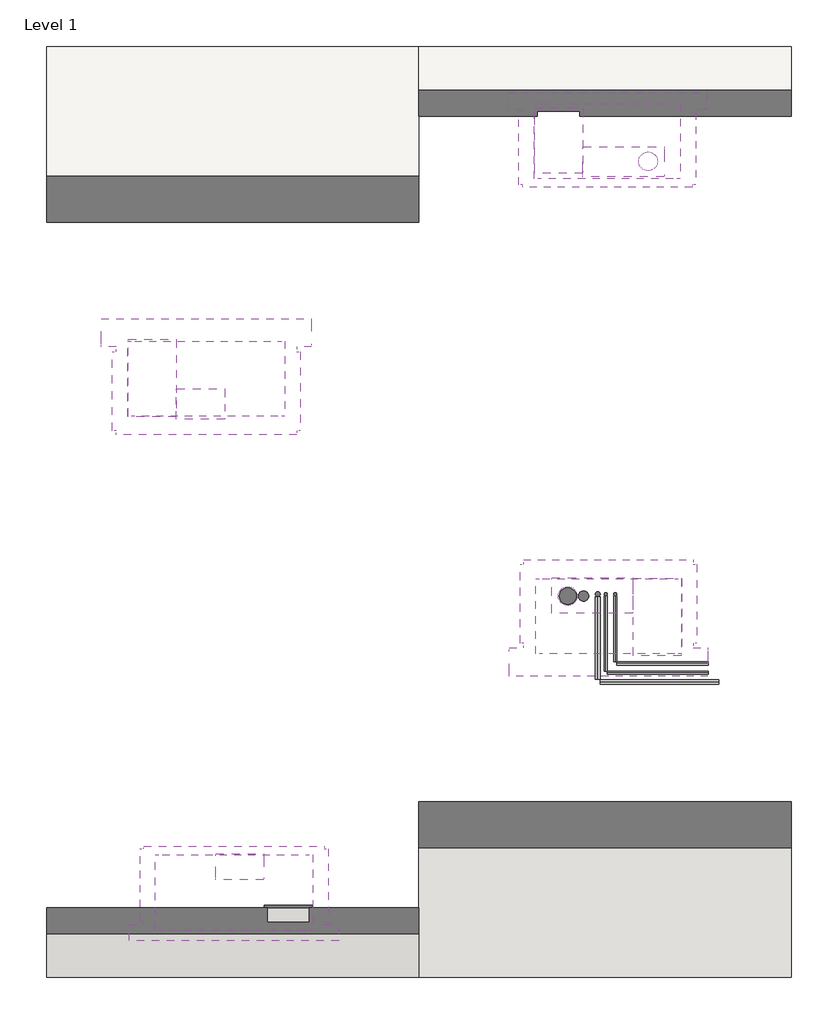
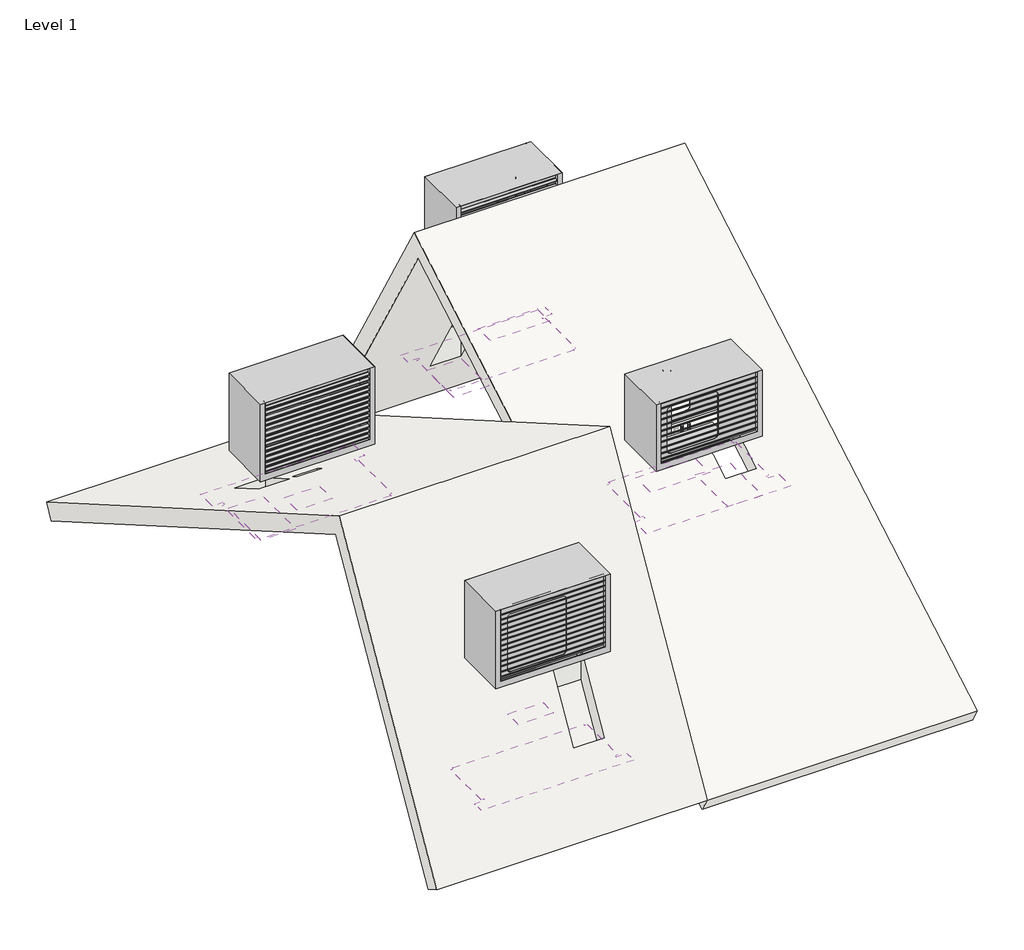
# One storey, incomplete: 12 coverings, 12 pipe segments, 4 unitary equipment elements, 2 roofs, 1 duct segment.
"""IFC4 building model written with IfcOpenShell, lengths in millimetres."""

from ifc_helpers import new_model, si_unit, point, frame, frame_2d, origin, place, context, project, spatial, circle_curve, trimmed, segment, composite_curve, outline, extrude, faceted_brep, transform, mapped, element, save
from components import covering_ebfa055f, covering_0022e7d6, covering_44cbcef2, covering_237e270b, covering_13abd7a2, covering_e1946cb7, covering_832741f2, covering_2f231527, inspection_panel_dda_93841c41, inspection_panel_dda_a83ceb8f, pipe_segment_adc9d0ba, delta_discovery_air_bdbf6794, delta_discovery_air_83ad3b17, delta_discovery_air_xl_f5126de7, delta_discovery_air_xl_14b97afa

model = new_model("IFC4")

# Units and contexts
model_context = context("Model", 3, world=origin())
ifc_project = project(units=[si_unit("LENGTHUNIT", "METRE", prefix="MILLI")], contexts=[model_context])

# Site, building, storey
site = spatial("IfcSite", under=ifc_project)
building = spatial("IfcBuilding", under=site)
storey = spatial("IfcBuildingStorey", under=building, Name="Level 1", Elevation=0.0)

# Coverings
placement = place(None, origin())
covering_shape = covering_ebfa055f(model_context)
element("IfcCovering", 1, ObjectType="RSen_GM_WPB_Delta Discovery Air_roofboard-SH_M&G : roofboard DDA", at=placement, inside=storey, context=model_context, shape_type="MappedRepresentation", body=[
    mapped(covering_shape, transform((8173.9996074, -2235.3633269, 2475.4617163), x_axis=(0.0, 1.0, 0.0), y_axis=(-1.0, 0.0, 0.0), z_axis=(0.0, 0.0, 1.0))),
])
covering_2_shape = covering_0022e7d6(model_context)
element("IfcCovering", 2, ObjectType="RSen_GM_WPB_Delta Discovery Air_roofboard-SH_M&G : roofboard DDA-XL", at=placement, inside=storey, context=model_context, shape_type="MappedRepresentation", body=[
    mapped(covering_2_shape, transform((4387.1169231, -5151.0925738, 1942.219356), x_axis=(0.0, 1.0, 0.0), y_axis=(-1.0, 0.0, 0.0), z_axis=(0.0, 0.0, 1.0))),
])
covering_3_shape = covering_44cbcef2(model_context)
element("IfcCovering", 3, ObjectType="RSen_GM_WPB_Delta Discovery Air_roofboard-SH_M&G : roofboard DDA", at=placement, inside=storey, context=model_context, shape_type="MappedRepresentation", body=[
    mapped(covering_3_shape, transform((8510.5299691, 2441.3325879, 2027.822587), x_axis=(0.0, -1.0, 0.0), y_axis=(1.0, 0.0, 0.0), z_axis=(0.0, 0.0, 1.0))),
])
covering_4_shape = covering_237e270b(model_context)
element("IfcCovering", 4, ObjectType="RSen_GM_WPB_Delta Discovery Air_roofboard-SH_M&G : roofboard DDA-XL", at=placement, inside=storey, context=model_context, shape_type="MappedRepresentation", body=[
    mapped(covering_4_shape, transform((3967.4796779, -166.4650275, 2326.2117163), x_axis=(0.0, -1.0, 0.0), y_axis=(1.0, 0.0, 0.0), z_axis=(0.0, 0.0, 1.0))),
])
covering_5_shape = covering_13abd7a2(model_context)
element("IfcCovering", 5, ObjectType="RSen_GM_WPB_Delta Discovery Air_mountingbox-SH_M&G : mountingbox DDA", at=placement, inside=storey, context=model_context, shape_type="MappedRepresentation", body=[
    mapped(covering_5_shape, transform((8348.9996074, -2790.8188759, 2443.4405917), x_axis=(0.0, 1.0, 0.0), y_axis=(-1.0, 0.0, 0.0), z_axis=(0.0, 0.0, 1.0))),
])
covering_6_shape = covering_e1946cb7(model_context)
element("IfcCovering", 6, ObjectType="RSen_GM_WPB_Delta Discovery Air_mountingbox-SH_M&G : mountingbox DDA-XL", at=placement, inside=storey, context=model_context, shape_type="MappedRepresentation", body=[
    mapped(covering_6_shape, transform((4325.6169231, -5757.5859079, 1391.7305412), x_axis=(0.0, 1.0, 0.0), y_axis=(-1.0, 0.0, 0.0), z_axis=(0.0, 0.0, 1.0))),
])
covering_7_shape = covering_832741f2(model_context)
element("IfcCovering", 7, ObjectType="RSen_GM_WPB_Delta Discovery Air_mountingbox-SH_M&G : mountingbox DDA", at=placement, inside=storey, context=model_context, shape_type="MappedRepresentation", body=[
    mapped(covering_7_shape, transform((8335.5299691, 2993.325922, 1571.7305412), x_axis=(0.0, -1.0, 0.0), y_axis=(1.0, 0.0, 0.0), z_axis=(0.0, 0.0, 1.0))),
])
covering_8_shape = covering_2f231527(model_context)
element("IfcCovering", 8, ObjectType="RSen_GM_WPB_Delta Discovery Air_mountingbox-SH_M&G : mountingbox DDA-XL", at=placement, inside=storey, context=model_context, shape_type="MappedRepresentation", body=[
    mapped(covering_8_shape, transform((4028.9796779, 442.2510838, 2263.4405917), x_axis=(0.0, -1.0, 0.0), y_axis=(1.0, 0.0, 0.0), z_axis=(0.0, 0.0, 1.0))),
])
inspection_panel_dda_shape = inspection_panel_dda_93841c41(model_context)
element("IfcCovering", 9, ObjectType="RSen_GM_WPB_Delta Discovery Air_insp panel-SH_M&G : inspection panel DDA", at=placement, inside=storey, context=model_context, shape_type="MappedRepresentation", body=[
    mapped(inspection_panel_dda_shape, transform((8871.4996074, -2464.4270462, 2343.2117163), x_axis=(0.0, 1.0000000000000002, 0.0), y_axis=(-1.0000000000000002, 0.0, 0.0), z_axis=(0.0, 0.0, 1.0))),
])
element("IfcCovering", 10, ObjectType="RSen_GM_WPB_Delta Discovery Air_insp panel-SH_M&G : inspection panel DDA", at=placement, inside=storey, context=model_context, shape_type="MappedRepresentation", body=[
    mapped(inspection_panel_dda_shape, transform((3446.4796779, 115.8592541, 2163.2117163), x_axis=(0.0, -1.0000000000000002, 0.0), y_axis=(1.0000000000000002, 0.0, 0.0), z_axis=(0.0, 0.0, 1.0))),
])
inspection_panel_dda_2_shape = inspection_panel_dda_a83ceb8f(model_context)
element("IfcCovering", 11, ObjectType="RSen_GM_WPB_Delta Discovery Air_insp panel-SH_M&G : inspection panel DDA", at=placement, inside=storey, context=model_context, shape_type="MappedRepresentation", body=[
    mapped(inspection_panel_dda_2_shape, transform((4908.1169231, -5435.0925738, 1450.3169266), x_axis=(0.0, 1.0000000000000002, 0.0), y_axis=(-1.0000000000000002, 0.0, 0.0), z_axis=(0.0, 0.0, 1.0))),
])
element("IfcCovering", 12, ObjectType="RSen_GM_WPB_Delta Discovery Air_insp panel-SH_M&G : inspection panel DDA", at=placement, inside=storey, context=model_context, shape_type="MappedRepresentation", body=[
    mapped(inspection_panel_dda_2_shape, transform((7813.0299691, 2670.8325879, 1630.3169266), x_axis=(0.0, -1.0000000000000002, 0.0), y_axis=(1.0000000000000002, 0.0, 0.0), z_axis=(0.0, 0.0, 1.0))),
])

# Duct segment
element("IfcDuctSegment", 13, ObjectType="Default", at=placement, inside=storey, context=model_context, shape_type="SweptSolid", body=[
    extrude(outline(composite_curve([segment(trimmed(circle_curve(frame_2d((7910.9996074, -2233.8255417)), 90.0), [point((7910.9996074, -2143.8255417))], [point((8000.9996074, -2233.8255417))], False, "CARTESIAN"), True, "CONTINUOUS"), segment(trimmed(circle_curve(frame_2d((7910.9996074, -2233.8255417)), 90.0), [point((8000.9996074, -2233.8255417))], [point((7910.9996074, -2323.8255417))], False, "CARTESIAN"), True, "CONTINUOUS"), segment(trimmed(circle_curve(frame_2d((7910.9996074, -2233.8255417)), 90.0), [point((7910.9996074, -2323.8255417))], [point((7820.9996074, -2233.8255417))], False, "CARTESIAN"), True, "CONTINUOUS"), segment(trimmed(circle_curve(frame_2d((7910.9996074, -2233.8255417)), 90.0), [point((7820.9996074, -2233.8255417))], [point((7910.9996074, -2143.8255417))], False, "CARTESIAN"), True, "CONTINUOUS")], self_intersect=False)), frame((0.0, 0.0, 544.2186654), z_axis=(0.0, 0.0, 1.0), x_axis=(1.0, 0.0, 0.0)), (0.0, 0.0, 1.0), 1520.0),
])

# Pipe segments
pipe_segment_shape = pipe_segment_adc9d0ba(model_context)
element("IfcPipeSegment", 14, ObjectType="RSen_GM_WPB_Delta Discovery Air_pipe extension set-SH_M&G : pipe ext set L=1000mm", at=placement, inside=storey, context=model_context, shape_type="MappedRepresentation", body=[
    mapped(pipe_segment_shape, transform((7910.9996074, -2233.8255417, 3064.2186654), x_axis=(1.0, 0.0, 0.0), y_axis=(0.0, 1.0, 0.0), z_axis=(0.0, 0.0, 1.0))),
])
element("IfcPipeSegment", 15, ObjectType="RSen_GM_WPB_Delta Discovery Air_pipe extension set-SH_M&G : pipe ext set L=1000mm", at=placement, inside=storey, context=model_context, shape_type="MappedRepresentation", body=[
    mapped(pipe_segment_shape, transform((8773.5299691, 2436.3325879, 3064.2186654), x_axis=(-1.0, 0.0, 0.0), y_axis=(0.0, -1.0, 0.0), z_axis=(0.0, 0.0, 1.0))),
])
element("IfcPipeSegment", 16, ObjectType="design HDPE", at=placement, inside=storey, context=model_context, shape_type="SweptSolid", body=[
    extrude(outline(composite_curve([segment(trimmed(circle_curve(frame_2d((0.0, 25.0)), 25.0), [point((25.0, 25.0))], [point((0.0, 0.0))], False, "CARTESIAN"), True, "CONTINUOUS"), segment(trimmed(circle_curve(frame_2d((0.0, 25.0)), 25.0), [point((0.0, 0.0))], [point((-25.0, 25.0))], False, "CARTESIAN"), True, "CONTINUOUS"), segment(trimmed(circle_curve(frame_2d((0.0, 25.0)), 25.0), [point((-25.0, 25.0))], [point((0.0, 50.0000001))], False, "CARTESIAN"), True, "CONTINUOUS"), segment(trimmed(circle_curve(frame_2d((0.0, 25.0)), 25.0), [point((0.0, 50.0000001))], [point((25.0, 25.0))], False, "CARTESIAN"), True, "CONTINUOUS")], self_intersect=False)), frame((8233.1325262, -3127.4701351, 79.915147), z_axis=(0.0, 0.9998875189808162, 0.014998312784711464), x_axis=(1.0, 0.0, 0.0)), (0.0, 0.0, 1.0), 886.8725414),
])
element("IfcPipeSegment", 17, ObjectType="design HDPE", at=placement, inside=storey, context=model_context, shape_type="SweptSolid", body=[
    extrude(outline(composite_curve([segment(trimmed(circle_curve(frame_2d((0.0, 25.0)), 25.0), [point((0.0, 50.0))], [point((25.0, 25.0))], False, "CARTESIAN"), True, "CONTINUOUS"), segment(trimmed(circle_curve(frame_2d((0.0, 25.0)), 25.0), [point((25.0, 25.0))], [point((0.0, 0.0))], False, "CARTESIAN"), True, "CONTINUOUS"), segment(trimmed(circle_curve(frame_2d((0.0, 25.0)), 25.0), [point((0.0, 0.0))], [point((-25.0, 25.0))], False, "CARTESIAN"), True, "CONTINUOUS"), segment(trimmed(circle_curve(frame_2d((0.0, 25.0)), 25.0), [point((-25.0, 25.0))], [point((0.0, 50.0))], False, "CARTESIAN"), True, "CONTINUOUS")], self_intersect=False)), frame((9532.9996074, -3180.0920278, 35.0), z_axis=(-0.9998875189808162, 0.0, 0.014998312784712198), x_axis=(0.014998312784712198, 0.0, 0.9998875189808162)), (0.0, 0.0, 1.0), 1272.013308),
])
element("IfcPipeSegment", 18, ObjectType="design HDPE", at=placement, inside=storey, context=model_context, shape_type="SweptSolid", body=[
    extrude(outline(composite_curve([segment(trimmed(circle_curve(frame_2d((8232.9996074, -2212.3255417)), 25.0), [point((8257.9996074, -2212.3255417))], [point((8232.9996074, -2237.3255417))], False, "CARTESIAN"), True, "CONTINUOUS"), segment(trimmed(circle_curve(frame_2d((8232.9996074, -2212.3255417)), 25.0), [point((8232.9996074, -2237.3255417))], [point((8207.9996074, -2212.3255417))], False, "CARTESIAN"), True, "CONTINUOUS"), segment(trimmed(circle_curve(frame_2d((8232.9996074, -2212.3255417)), 25.0), [point((8207.9996074, -2212.3255417))], [point((8232.9996074, -2187.3255417))], False, "CARTESIAN"), True, "CONTINUOUS"), segment(trimmed(circle_curve(frame_2d((8232.9996074, -2212.3255417)), 25.0), [point((8232.9996074, -2187.3255417))], [point((8257.9996074, -2212.3255417))], False, "CARTESIAN"), True, "CONTINUOUS")], self_intersect=False)), frame((0.0, 0.0, 96.6395035), z_axis=(0.0, 0.0, 1.0), x_axis=(1.0, 0.0, 0.0)), (0.0, 0.0, 1.0), 1967.5791618),
])
element("IfcPipeSegment", 19, ObjectType="design HDPE", at=placement, inside=storey, context=model_context, shape_type="SweptSolid", body=[
    extrude(outline(composite_curve([segment(trimmed(circle_curve(frame_2d((8080.9996074, -2233.8255417)), 55.0), [point((8135.9996074, -2233.8255417))], [point((8080.9996074, -2288.8255417))], False, "CARTESIAN"), True, "CONTINUOUS"), segment(trimmed(circle_curve(frame_2d((8080.9996074, -2233.8255417)), 55.0), [point((8080.9996074, -2288.8255417))], [point((8025.9996074, -2233.8255417))], False, "CARTESIAN"), True, "CONTINUOUS"), segment(trimmed(circle_curve(frame_2d((8080.9996074, -2233.8255417)), 55.0), [point((8025.9996074, -2233.8255417))], [point((8080.9996074, -2178.8255417))], False, "CARTESIAN"), True, "CONTINUOUS"), segment(trimmed(circle_curve(frame_2d((8080.9996074, -2233.8255417)), 55.0), [point((8080.9996074, -2178.8255417))], [point((8135.9996074, -2233.8255417))], False, "CARTESIAN"), True, "CONTINUOUS")], self_intersect=False)), frame((0.0, 0.0, 304.2186654), z_axis=(0.0, 0.0, 1.0), x_axis=(1.0, 0.0, 0.0)), (0.0, 0.0, 1.0), 1760.0),
])
element("IfcPipeSegment", 20, ObjectType="design steel pipes", at=placement, inside=storey, context=model_context, shape_type="SweptSolid", body=[
    extrude(outline(composite_curve([segment(trimmed(circle_curve(frame_2d((8419.9996074, -2212.3255417)), 16.85), [point((8436.8496074, -2212.3255417))], [point((8419.9996074, -2229.1755417))], False, "CARTESIAN"), True, "CONTINUOUS"), segment(trimmed(circle_curve(frame_2d((8419.9996074, -2212.3255417)), 16.85), [point((8419.9996074, -2229.1755417))], [point((8403.1496074, -2212.3255417))], False, "CARTESIAN"), True, "CONTINUOUS"), segment(trimmed(circle_curve(frame_2d((8419.9996074, -2212.3255417)), 16.85), [point((8403.1496074, -2212.3255417))], [point((8419.9996074, -2195.4755417))], False, "CARTESIAN"), True, "CONTINUOUS"), segment(trimmed(circle_curve(frame_2d((8419.9996074, -2212.3255417)), 16.85), [point((8419.9996074, -2195.4755417))], [point((8436.8496074, -2212.3255417))], False, "CARTESIAN"), True, "CONTINUOUS")], self_intersect=False)), frame((0.0, 0.0, 42.5), z_axis=(0.0, 0.0, 1.0), x_axis=(1.0, 0.0, 0.0)), (0.0, 0.0, 1.0), 3013.9759803),
])
element("IfcPipeSegment", 21, ObjectType="design steel pipes", at=placement, inside=storey, context=model_context, shape_type="SweptSolid", body=[
    extrude(outline(composite_curve([segment(trimmed(circle_curve(frame_2d((25.0, 8419.9996074)), 16.85), [point((25.0, 8403.1496074))], [point((8.15, 8419.9996074))], False, "CARTESIAN"), True, "CONTINUOUS"), segment(trimmed(circle_curve(frame_2d((25.0, 8419.9996074)), 16.85), [point((8.15, 8419.9996074))], [point((25.0, 8436.8496074))], False, "CARTESIAN"), True, "CONTINUOUS"), segment(trimmed(circle_curve(frame_2d((25.0, 8419.9996074)), 16.85), [point((25.0, 8436.8496074))], [point((41.85, 8419.9996074))], False, "CARTESIAN"), True, "CONTINUOUS"), segment(trimmed(circle_curve(frame_2d((25.0, 8419.9996074)), 16.85), [point((41.85, 8419.9996074))], [point((25.0, 8403.1496074))], False, "CARTESIAN"), True, "CONTINUOUS")], self_intersect=False)), frame((0.0, -2939.8366952, 0.0), z_axis=(0.0, 1.0, 0.0), x_axis=(0.0, 0.0, 1.0)), (0.0, 0.0, 1.0), 710.0111535),
])
element("IfcPipeSegment", 22, ObjectType="design steel pipes", at=placement, inside=storey, context=model_context, shape_type="SweptSolid", body=[
    extrude(outline(composite_curve([segment(trimmed(circle_curve(frame_2d((0.0, 16.8499999)), 16.85), [point((-16.85, 16.8499999))], [point((0.0, 33.6999999))], False, "CARTESIAN"), True, "CONTINUOUS"), segment(trimmed(circle_curve(frame_2d((0.0, 16.8499999)), 16.85), [point((0.0, 33.6999999))], [point((16.85, 16.8499999))], False, "CARTESIAN"), True, "CONTINUOUS"), segment(trimmed(circle_curve(frame_2d((0.0, 16.8499999)), 16.85), [point((16.85, 16.8499999))], [point((0.0, 0.0))], False, "CARTESIAN"), True, "CONTINUOUS"), segment(trimmed(circle_curve(frame_2d((0.0, 16.8499999)), 16.85), [point((0.0, 0.0))], [point((-16.85, 16.8499999))], False, "CARTESIAN"), True, "CONTINUOUS")], self_intersect=False)), frame((8437.5000121, -2957.3366952, 8.1504204), z_axis=(0.9999999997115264, 0.0, 2.401972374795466e-05), x_axis=(0.0, 1.0, 0.0)), (0.0, 0.0, 1.0), 982.5460959),
])
element("IfcPipeSegment", 23, ObjectType="design steel pipes", at=placement, inside=storey, context=model_context, shape_type="SweptSolid", body=[
    extrude(outline(composite_curve([segment(trimmed(circle_curve(frame_2d((8319.9996074, -2212.3255417)), 16.85), [point((8303.1496074, -2212.3255417))], [point((8319.9996074, -2195.4755417))], False, "CARTESIAN"), True, "CONTINUOUS"), segment(trimmed(circle_curve(frame_2d((8319.9996074, -2212.3255417)), 16.85), [point((8319.9996074, -2195.4755417))], [point((8336.8496074, -2212.3255417))], False, "CARTESIAN"), True, "CONTINUOUS"), segment(trimmed(circle_curve(frame_2d((8319.9996074, -2212.3255417)), 16.85), [point((8336.8496074, -2212.3255417))], [point((8319.9996074, -2229.1755417))], False, "CARTESIAN"), True, "CONTINUOUS"), segment(trimmed(circle_curve(frame_2d((8319.9996074, -2212.3255417)), 16.85), [point((8319.9996074, -2229.1755417))], [point((8303.1496074, -2212.3255417))], False, "CARTESIAN"), True, "CONTINUOUS")], self_intersect=False)), frame((0.0, 0.0, 42.5), z_axis=(0.0, 0.0, 1.0), x_axis=(1.0, 0.0, 0.0)), (0.0, 0.0, 1.0), 3013.9759803),
])
element("IfcPipeSegment", 24, ObjectType="design steel pipes", at=placement, inside=storey, context=model_context, shape_type="SweptSolid", body=[
    extrude(outline(composite_curve([segment(trimmed(circle_curve(frame_2d((25.0, 8319.9996074)), 16.85), [point((25.0, 8303.1496074))], [point((8.15, 8319.9996074))], False, "CARTESIAN"), True, "CONTINUOUS"), segment(trimmed(circle_curve(frame_2d((25.0, 8319.9996074)), 16.85), [point((8.15, 8319.9996074))], [point((25.0, 8336.8496074))], False, "CARTESIAN"), True, "CONTINUOUS"), segment(trimmed(circle_curve(frame_2d((25.0, 8319.9996074)), 16.85), [point((25.0, 8336.8496074))], [point((41.85, 8319.9996074))], False, "CARTESIAN"), True, "CONTINUOUS"), segment(trimmed(circle_curve(frame_2d((25.0, 8319.9996074)), 16.85), [point((41.85, 8319.9996074))], [point((25.0, 8303.1496074))], False, "CARTESIAN"), True, "CONTINUOUS")], self_intersect=False)), frame((0.0, -3039.8366952, 0.0), z_axis=(0.0, 1.0, 0.0), x_axis=(0.0, 0.0, 1.0)), (0.0, 0.0, 1.0), 810.0111535),
])
element("IfcPipeSegment", 25, ObjectType="design steel pipes", at=placement, inside=storey, context=model_context, shape_type="SweptSolid", body=[
    extrude(outline(composite_curve([segment(trimmed(circle_curve(frame_2d((0.0, 16.8499999)), 16.85), [point((-16.85, 16.8499999))], [point((0.0, 33.6999999))], False, "CARTESIAN"), True, "CONTINUOUS"), segment(trimmed(circle_curve(frame_2d((0.0, 16.8499999)), 16.85), [point((0.0, 33.6999999))], [point((16.85, 16.8499999))], False, "CARTESIAN"), True, "CONTINUOUS"), segment(trimmed(circle_curve(frame_2d((0.0, 16.8499999)), 16.85), [point((16.85, 16.8499999))], [point((0.0, 0.0))], False, "CARTESIAN"), True, "CONTINUOUS"), segment(trimmed(circle_curve(frame_2d((0.0, 16.8499999)), 16.85), [point((0.0, 0.0))], [point((-16.85, 16.8499999))], False, "CARTESIAN"), True, "CONTINUOUS")], self_intersect=False)), frame((8337.5000121, -3057.3366952, 8.1504204), z_axis=(0.9999999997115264, 0.0, 2.4019723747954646e-05), x_axis=(0.0, 1.0, 0.0)), (0.0, 0.0, 1.0), 1082.5460959),
])

# Roofs
element("IfcRoof", 26, ObjectType="Roof 1", at=placement, inside=storey, context=model_context, shape_type="Brep", body=[
    faceted_brep([(2311.6571684, -6330.1684687, 400.0), (2311.6571684, -3830.1684687, 4730.1270189), (2311.6571684, 3669.8315313, 400.0), (2311.6571684, 3544.8315313, 183.4936491), (2311.6571684, -3738.6621178, 4388.620668), (2311.6571684, -6113.6621178, 275.0), (6311.6571684, -3830.1684687, 4730.1270189), (6311.6571684, -6330.1684687, 400.0), (6311.6571684, -6113.6621178, 275.0), (6311.6571684, -3738.6621178, 4388.620668), (6311.6571684, 3544.8315313, 183.4936491), (6311.6571684, 3669.8315313, 400.0), (5135.6169231, -5132.5925738, 2474.2622959), (5135.6169231, -5737.5925738, 1426.3715573), (4680.6169231, -5737.5925738, 1426.3715573), (4680.6169231, -5132.5925738, 2474.2622959), (4582.6169231, -5091.0925738, 2546.1424044), (4582.6169231, -5211.0925738, 2338.2963075), (4219.6169231, -5211.0925738, 2338.2963075), (4219.6169231, -5091.0925738, 2546.1424044), (3218.9796779, -186.8166245, 2626.6368509), (3218.9796779, 418.5351327, 2277.1368509), (3673.9796779, 418.5351327, 2277.1368509), (3673.9796779, -186.8166245, 2626.6368509), (3771.9796779, -226.6537931, 2649.6368509), (3771.9796779, -106.276262, 2580.1368509), (4134.9796779, -106.276262, 2580.1368509), (4134.9796779, -226.6537931, 2649.6368509), (3218.9796779, 418.5351327, 1988.4617163), (3218.9796779, -186.8166245, 2337.9617163), (3673.9796779, -186.8166245, 2337.9617163), (3673.9796779, 418.5351327, 1988.4617163), (3771.9796779, -106.276262, 2291.4617163), (3771.9796779, -226.6537931, 2360.9617163), (4134.9796779, -226.6537931, 2360.9617163), (4134.9796779, -106.276262, 2291.4617163), (5135.6169231, -5737.5925738, 926.3715573), (5135.6169231, -5132.5925738, 1974.2622959), (4680.6169231, -5132.5925738, 1974.2622959), (4680.6169231, -5737.5925738, 926.3715573), (4582.6169231, -5211.0925738, 1838.2963075), (4582.6169231, -5091.0925738, 2046.1424044), (4219.6169231, -5091.0925738, 2046.1424044), (4219.6169231, -5211.0925738, 1838.2963075)], [[[0, 1, 2, 3, 4, 5]], [[6, 7, 8, 9, 10, 11]], [[1, 0, 7, 6], [12, 13, 14, 15], [16, 17, 18, 19]], [[2, 1, 6, 11], [20, 21, 22, 23], [24, 25, 26, 27]], [[9, 4, 3, 10], [28, 29, 30, 31], [32, 33, 34, 35]], [[4, 9, 8, 5], [36, 37, 38, 39], [40, 41, 42, 43]], [[3, 2, 11, 10]], [[0, 5, 8, 7]], [[36, 13, 12, 37]], [[38, 15, 14, 39]], [[37, 12, 15, 38]], [[13, 36, 39, 14]], [[40, 17, 16, 41]], [[42, 19, 18, 43]], [[41, 16, 19, 42]], [[17, 40, 43, 18]], [[28, 21, 20, 29]], [[30, 23, 22, 31]], [[29, 20, 23, 30]], [[21, 28, 31, 22]], [[32, 25, 24, 33]], [[34, 27, 26, 35]], [[33, 24, 27, 34]], [[25, 32, 35, 26]]]),
])
element("IfcRoof", 27, ObjectType="Roof 1", at=placement, inside=storey, context=model_context, shape_type="Brep", body=[
    faceted_brep([(10311.6571684, 3669.8315313, 400.0), (10311.6571684, 1169.8315313, 4730.1270189), (10311.6571684, -6330.1684687, 400.0), (10311.6571684, -6205.1684687, 183.4936491), (10311.6571684, 1078.3251803, 4388.620668), (10311.6571684, 3453.3251803, 275.0), (6311.6571684, 1169.8315313, 4730.1270189), (6311.6571684, 3669.8315313, 400.0), (6311.6571684, 3453.3251803, 275.0), (6311.6571684, 1078.3251803, 4388.620668), (6311.6571684, -6205.1684687, 183.4936491), (6311.6571684, -6330.1684687, 400.0), (7585.5299691, 2368.3325879, 2654.2622959), (7585.5299691, 2973.3325879, 1606.3715573), (8040.5299691, 2973.3325879, 1606.3715573), (8040.5299691, 2368.3325879, 2654.2622959), (8142.5299691, 2331.3325879, 2718.3481758), (8142.5299691, 2551.3325879, 2337.2969981), (8884.5299691, 2551.3325879, 2337.2969981), (8884.5299691, 2331.3325879, 2718.3481758), (9098.9996074, -2161.7511676, 2806.6368509), (9098.9996074, -2767.1029248, 2457.1368509), (8643.9996074, -2767.1029248, 2457.1368509), (8643.9996074, -2161.7511676, 2806.6368509), (8541.9996074, -2125.3781006, 2827.6368509), (8541.9996074, -2345.3485532, 2700.6368509), (7799.9996074, -2345.3485532, 2700.6368509), (7799.9996074, -2125.3781006, 2827.6368509), (9098.9996074, -2767.1029248, 2168.4617163), (9098.9996074, -2161.7511676, 2517.9617163), (8643.9996074, -2161.7511676, 2517.9617163), (8643.9996074, -2767.1029248, 2168.4617163), (8541.9996074, -2345.3485532, 2411.9617163), (8541.9996074, -2125.3781006, 2538.9617163), (7799.9996074, -2125.3781006, 2538.9617163), (7799.9996074, -2345.3485532, 2411.9617163), (7585.5299691, 2973.3325879, 1106.3715573), (7585.5299691, 2368.3325879, 2154.2622959), (8040.5299691, 2368.3325879, 2154.2622959), (8040.5299691, 2973.3325879, 1106.3715573), (8142.5299691, 2551.3325879, 1837.2969981), (8142.5299691, 2331.3325879, 2218.3481758), (8884.5299691, 2331.3325879, 2218.3481758), (8884.5299691, 2551.3325879, 1837.2969981)], [[[0, 1, 2, 3, 4, 5]], [[6, 7, 8, 9, 10, 11]], [[1, 0, 7, 6], [12, 13, 14, 15], [16, 17, 18, 19]], [[2, 1, 6, 11], [20, 21, 22, 23], [24, 25, 26, 27]], [[9, 4, 3, 10], [28, 29, 30, 31], [32, 33, 34, 35]], [[4, 9, 8, 5], [36, 37, 38, 39], [40, 41, 42, 43]], [[3, 2, 11, 10]], [[0, 5, 8, 7]], [[28, 21, 20, 29]], [[30, 23, 22, 31]], [[29, 20, 23, 30]], [[21, 28, 31, 22]], [[32, 25, 24, 33]], [[34, 27, 26, 35]], [[33, 24, 27, 34]], [[25, 32, 35, 26]], [[36, 13, 12, 37]], [[38, 15, 14, 39]], [[37, 12, 15, 38]], [[13, 36, 39, 14]], [[40, 17, 16, 41]], [[42, 19, 18, 43]], [[41, 16, 19, 42]], [[17, 40, 43, 18]]]),
])

# Unitary equipment
delta_discovery_air_shape = delta_discovery_air_bdbf6794(model_context)
element("IfcUnitaryEquipment", 28, ObjectType="RSen_GM_WPB_Delta Discovery Air_M&G : Delta Discovery Air", at=placement, inside=storey, context=model_context, shape_type="MappedRepresentation", body=[
    mapped(delta_discovery_air_shape, transform((8348.9996074, -2048.3255417, 2872.1231665), x_axis=(1.0, 0.0, 0.0), y_axis=(0.0, 1.0, 0.0), z_axis=(0.0, 0.0, 1.0))),
])
delta_discovery_air_2_shape = delta_discovery_air_83ad3b17(model_context)
element("IfcUnitaryEquipment", 29, ObjectType="RSen_GM_WPB_Delta Discovery Air_M&G : Delta Discovery Air", at=placement, inside=storey, context=model_context, shape_type="MappedRepresentation", body=[
    mapped(delta_discovery_air_2_shape, transform((8335.5299691, 2250.8325879, 2857.7782658), x_axis=(-1.0, 0.0, 0.0), y_axis=(0.0, -1.0, 0.0), z_axis=(0.0, 0.0, 1.0))),
])
delta_discovery_air_xl_shape = delta_discovery_air_xl_f5126de7(model_context)
element("IfcUnitaryEquipment", 30, ObjectType="RSen_GM_WPB_Delta Discovery Air_M&G : Delta Discovery Air-XL", at=placement, inside=storey, context=model_context, shape_type="MappedRepresentation", body=[
    mapped(delta_discovery_air_xl_shape, transform((4325.6169231, -5015.0925738, 2677.7782658), x_axis=(1.0, 0.0, 0.0), y_axis=(0.0, 1.0, 0.0), z_axis=(0.0, 0.0, 1.0))),
])
delta_discovery_air_xl_2_shape = delta_discovery_air_xl_14b97afa(model_context)
element("IfcUnitaryEquipment", 31, ObjectType="RSen_GM_WPB_Delta Discovery Air_M&G : Delta Discovery Air-XL", at=placement, inside=storey, context=model_context, shape_type="MappedRepresentation", body=[
    mapped(delta_discovery_air_xl_2_shape, transform((4028.9796779, -300.2422504, 2692.1231665), x_axis=(-1.0, 0.0, 0.0), y_axis=(0.0, -1.0, 0.0), z_axis=(0.0, 0.0, 1.0))),
])

save(model, "model.ifc")
